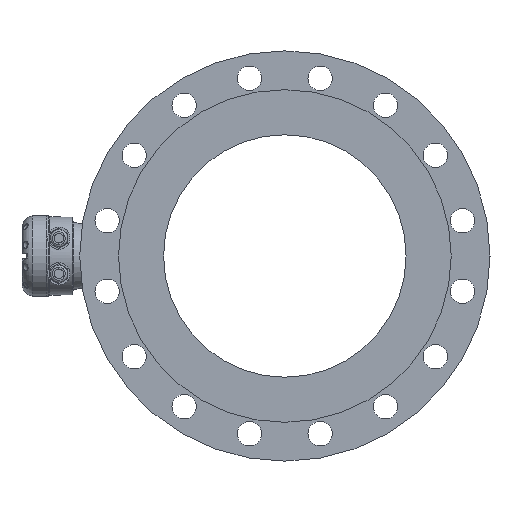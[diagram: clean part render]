
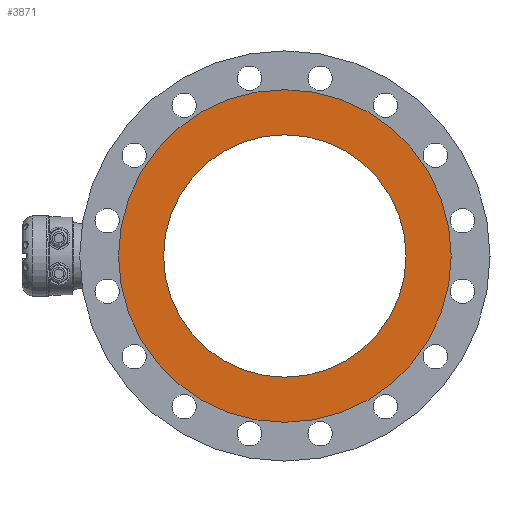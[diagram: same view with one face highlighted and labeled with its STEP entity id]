
A CAD part, left-side view. The second image highlights one B-rep face of the part: STEP entity #3871.
In plain terms, the highlighted planar face has unit normal (-1, 0, 0).
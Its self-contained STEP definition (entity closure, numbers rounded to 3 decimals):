
#402 = AXIS2_PLACEMENT_3D ( 'NONE', #7761, #7770, #7771 ) ;
#920 = AXIS2_PLACEMENT_3D ( 'NONE', #5250, #5255, #5256 ) ;
#994 = AXIS2_PLACEMENT_3D ( 'NONE', #6048, #6056, #6057 ) ;
#1188 = EDGE_LOOP ( 'NONE', ( #9547 ) ) ;
#1531 = EDGE_LOOP ( 'NONE', ( #9546 ) ) ;
#3871 = ADVANCED_FACE ( 'NONE', ( #8738, #8737 ), #7709, .T. ) ;
#4670 = EDGE_CURVE ( 'NONE', #14174, #14174, #9399, .T. ) ;
#5250 = CARTESIAN_POINT ( 'NONE',  ( -344.805, -256.017, -10.543 ) ) ;
#5255 = DIRECTION ( 'NONE',  ( 1., 0., 0. ) ) ;
#5256 = DIRECTION ( 'NONE',  ( 0., 0., -1. ) ) ;
#6048 = CARTESIAN_POINT ( 'NONE',  ( -344.805, -256.017, -10.543 ) ) ;
#6056 = DIRECTION ( 'NONE',  ( -1., 0., 0. ) ) ;
#6057 = DIRECTION ( 'NONE',  ( 0., 0., 1. ) ) ;
#7709 = PLANE ( 'NONE',  #402 ) ;
#7761 = CARTESIAN_POINT ( 'NONE',  ( -344.805, -92.017, -10.543 ) ) ;
#7770 = DIRECTION ( 'NONE',  ( -1., 0., 0. ) ) ;
#7771 = DIRECTION ( 'NONE',  ( 0., 0., 1. ) ) ;
#8313 = EDGE_CURVE ( 'NONE', #14246, #14246, #9488, .T. ) ;
#8737 = FACE_OUTER_BOUND ( 'NONE', #1188, .T. ) ;
#8738 = FACE_BOUND ( 'NONE', #1531, .T. ) ;
#9399 = CIRCLE ( 'NONE', #920, 164. ) ;
#9488 = CIRCLE ( 'NONE', #994, 225. ) ;
#9546 = ORIENTED_EDGE ( 'NONE', *, *, #4670, .T. ) ;
#9547 = ORIENTED_EDGE ( 'NONE', *, *, #8313, .T. ) ;
#14174 = VERTEX_POINT ( 'NONE', #14175 ) ;
#14175 = CARTESIAN_POINT ( 'NONE',  ( -344.805, -256.017, -174.543 ) ) ;
#14246 = VERTEX_POINT ( 'NONE', #14247 ) ;
#14247 = CARTESIAN_POINT ( 'NONE',  ( -344.805, -256.017, 214.457 ) ) ;
